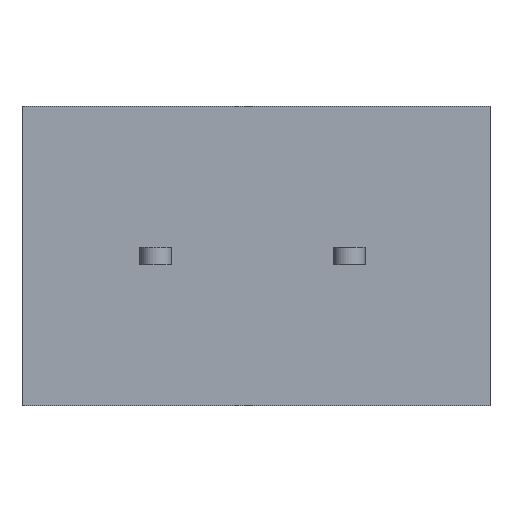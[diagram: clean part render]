
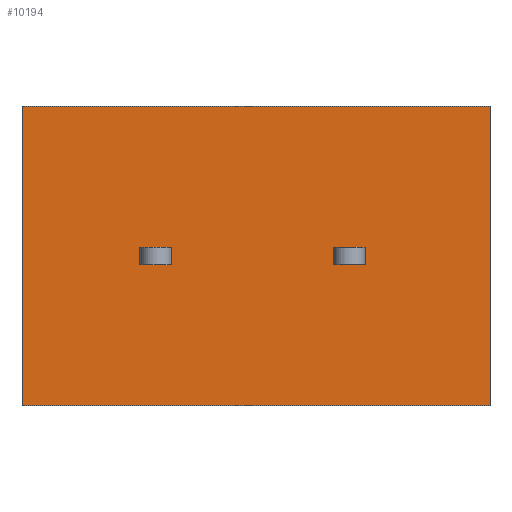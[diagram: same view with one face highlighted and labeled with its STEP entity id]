
A CAD part, front view. The second image highlights one B-rep face of the part: STEP entity #10194.
In plain terms, the highlighted planar face has unit normal (0, -1, 0).
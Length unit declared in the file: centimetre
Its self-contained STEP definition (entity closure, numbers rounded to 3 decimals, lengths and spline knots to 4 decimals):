
#546=VECTOR('',#10758,1.);
#550=VECTOR('',#10763,1.);
#561=VECTOR('',#10796,1.);
#563=VECTOR('',#10799,1.);
#996=VECTOR('',#11408,1.);
#1594=VECTOR('',#12441,1.);
#1602=VECTOR('',#12458,1.);
#1603=VECTOR('',#12459,1.);
#1604=VECTOR('',#12460,1.);
#1605=VECTOR('',#12461,1.);
#1606=VECTOR('',#12462,1.);
#1607=VECTOR('',#12463,1.);
#1676=LINE('',#12746,#546);
#1680=LINE('',#12755,#550);
#1691=LINE('',#12790,#561);
#1693=LINE('',#12794,#563);
#2126=LINE('',#14377,#996);
#2724=LINE('',#16495,#1594);
#2732=LINE('',#16520,#1602);
#2733=LINE('',#16523,#1603);
#2734=LINE('',#16525,#1604);
#2735=LINE('',#16527,#1605);
#2736=LINE('',#16528,#1606);
#2737=LINE('',#16529,#1607);
#2826=VERTEX_POINT('',#12747);
#2827=VERTEX_POINT('',#12748);
#2830=VERTEX_POINT('',#12756);
#2841=VERTEX_POINT('',#12791);
#3208=VERTEX_POINT('',#14378);
#3209=VERTEX_POINT('',#14379);
#3752=VERTEX_POINT('',#16496);
#3753=VERTEX_POINT('',#16497);
#3764=VERTEX_POINT('',#16521);
#3765=VERTEX_POINT('',#16522);
#3766=VERTEX_POINT('',#16524);
#3767=VERTEX_POINT('',#16526);
#3986=EDGE_CURVE('',#2826,#2827,#1676,.T.);
#3990=EDGE_CURVE('',#2830,#2826,#1680,.T.);
#4007=EDGE_CURVE('',#2841,#2830,#1691,.T.);
#4009=EDGE_CURVE('',#2827,#2841,#1693,.T.);
#4558=EDGE_CURVE('',#3208,#3209,#2126,.T.);
#5362=EDGE_CURVE('',#3752,#3753,#2724,.T.);
#5374=EDGE_CURVE('',#3764,#3765,#2732,.T.);
#5375=EDGE_CURVE('',#3766,#3764,#2733,.T.);
#5376=EDGE_CURVE('',#3767,#3766,#2734,.T.);
#5377=EDGE_CURVE('',#3765,#3767,#2735,.T.);
#5378=EDGE_CURVE('',#3753,#3208,#2736,.T.);
#5379=EDGE_CURVE('',#3209,#3752,#2737,.T.);
#8271=ORIENTED_EDGE('',*,*,#3990,.T.);
#8272=ORIENTED_EDGE('',*,*,#3986,.T.);
#8273=ORIENTED_EDGE('',*,*,#4009,.T.);
#8274=ORIENTED_EDGE('',*,*,#4007,.T.);
#8275=ORIENTED_EDGE('',*,*,#5374,.F.);
#8276=ORIENTED_EDGE('',*,*,#5375,.F.);
#8277=ORIENTED_EDGE('',*,*,#5376,.F.);
#8278=ORIENTED_EDGE('',*,*,#5377,.F.);
#8279=ORIENTED_EDGE('',*,*,#5362,.T.);
#8280=ORIENTED_EDGE('',*,*,#5378,.T.);
#8281=ORIENTED_EDGE('',*,*,#4558,.T.);
#8282=ORIENTED_EDGE('',*,*,#5379,.T.);
#9017=EDGE_LOOP('',(#8271,#8272,#8273,#8274));
#9018=EDGE_LOOP('',(#8275,#8276,#8277,#8278));
#9019=EDGE_LOOP('',(#8279,#8280,#8281,#8282));
#9633=FACE_BOUND('',#9017,.T.);
#9634=FACE_BOUND('',#9018,.T.);
#9635=FACE_BOUND('',#9019,.T.);
#10194=ADVANCED_FACE('',(#9633,#9634,#9635),#10582,.T.);
#10582=PLANE('',#17162);
#10758=DIRECTION('',(0.,0.,-1.));
#10763=DIRECTION('',(1.,0.,0.));
#10796=DIRECTION('',(0.,0.,1.));
#10799=DIRECTION('',(-1.,0.,0.));
#11408=DIRECTION('',(0.,0.,-1.));
#12441=DIRECTION('',(0.,0.,1.));
#12457=DIRECTION('',(0.,-1.,0.));
#12458=DIRECTION('',(-1.,0.,0.));
#12459=DIRECTION('',(0.,0.,1.));
#12460=DIRECTION('',(1.,0.,0.));
#12461=DIRECTION('',(0.,0.,-1.));
#12462=DIRECTION('',(-1.,0.,0.));
#12463=DIRECTION('',(1.,0.,0.));
#12746=CARTESIAN_POINT('',(-1.64,0.,0.175));
#12747=CARTESIAN_POINT('',(-1.64,0.,0.05));
#12748=CARTESIAN_POINT('',(-1.64,0.,-0.05));
#12755=CARTESIAN_POINT('',(-0.865,0.,0.05));
#12756=CARTESIAN_POINT('',(-1.82,0.,0.05));
#12790=CARTESIAN_POINT('',(-1.82,0.,0.175));
#12791=CARTESIAN_POINT('',(-1.82,0.,-0.05));
#12794=CARTESIAN_POINT('',(-0.865,0.,-0.05));
#14377=CARTESIAN_POINT('',(-2.53,0.,-0.85));
#14378=CARTESIAN_POINT('',(-2.53,0.,0.85));
#14379=CARTESIAN_POINT('',(-2.53,0.,-0.85));
#16495=CARTESIAN_POINT('',(0.13,0.,0.85));
#16496=CARTESIAN_POINT('',(0.13,0.,-0.85));
#16497=CARTESIAN_POINT('',(0.13,0.,0.85));
#16519=CARTESIAN_POINT('',(0.,0.,0.));
#16520=CARTESIAN_POINT('',(-0.415,0.,0.05));
#16521=CARTESIAN_POINT('',(-0.54,0.,0.05));
#16522=CARTESIAN_POINT('',(-0.72,0.,0.05));
#16523=CARTESIAN_POINT('',(-0.54,0.,0.175));
#16524=CARTESIAN_POINT('',(-0.54,0.,-0.05));
#16525=CARTESIAN_POINT('',(-0.415,0.,-0.05));
#16526=CARTESIAN_POINT('',(-0.72,0.,-0.05));
#16527=CARTESIAN_POINT('',(-0.72,0.,0.175));
#16528=CARTESIAN_POINT('',(0.,0.,0.85));
#16529=CARTESIAN_POINT('',(0.,0.,-0.85));
#17162=AXIS2_PLACEMENT_3D('',#16519,#12457,$);
